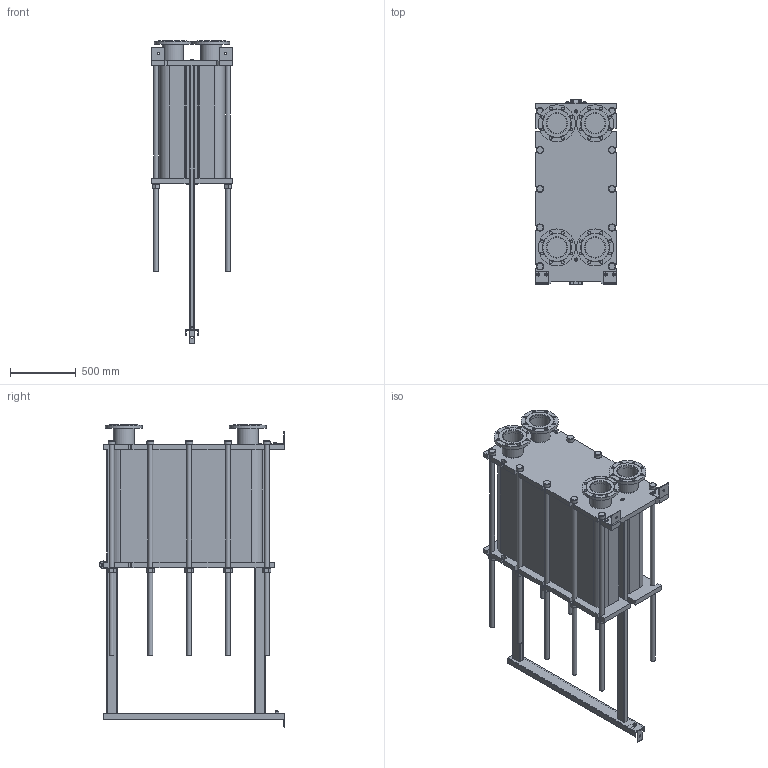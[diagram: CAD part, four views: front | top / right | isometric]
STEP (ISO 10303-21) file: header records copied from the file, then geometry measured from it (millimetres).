
FILE_DESCRIPTION(/* description */ (''),/* implementation_level */ '2;1');
FILE_NAME(/* name */ 'C:\Users\zhuro\Desktop\ENCO\TO\ЭН-041\ЭН-0,5-041-247-1.stp',/* time_stamp */ '2022-06-06T11:09:56+03:00',/* author */ ('zhuro'),/* organization */ (''),/* preprocessor_version */ 'ST-DEVELOPER v18.1',/* originating_system */ 'Autodesk Inventor 2022',/* authorisation */ '');
FILE_SCHEMA (('AUTOMOTIVE_DESIGN { 1 0 10303 214 3 1 1 }'));
Length unit declared in the file: millimetre
Products named in the file (1): ЭН-0,5-041-247-1
Bounding box: 610 x 1406.5 x 2292.5 mm (x, y, z)
Volume: 570084145.1 mm3; surface area: 12265740.6 mm2
Topology: 52 solids, 52 shells, 711 faces, 1696 edges, 1094 vertices
Faces by surface type: plane 487, cylinder 177, cone 41, torus 6
Full cylindrical faces by diameter (mm): 8 x4, 10 x2, 16 x8, 18 x3, 22 x32, 36 x24, 50 x1, 54 x10, 60 x12, 151 x4, 161 x8, 280 x4
Entity records: 22667 total; most frequent: CARTESIAN_POINT 5230, DIRECTION 3644, ORIENTED_EDGE 3392, EDGE_CURVE 1696, AXIS2_PLACEMENT_3D 1272, LINE 1100, VECTOR 1100, VERTEX_POINT 1094
